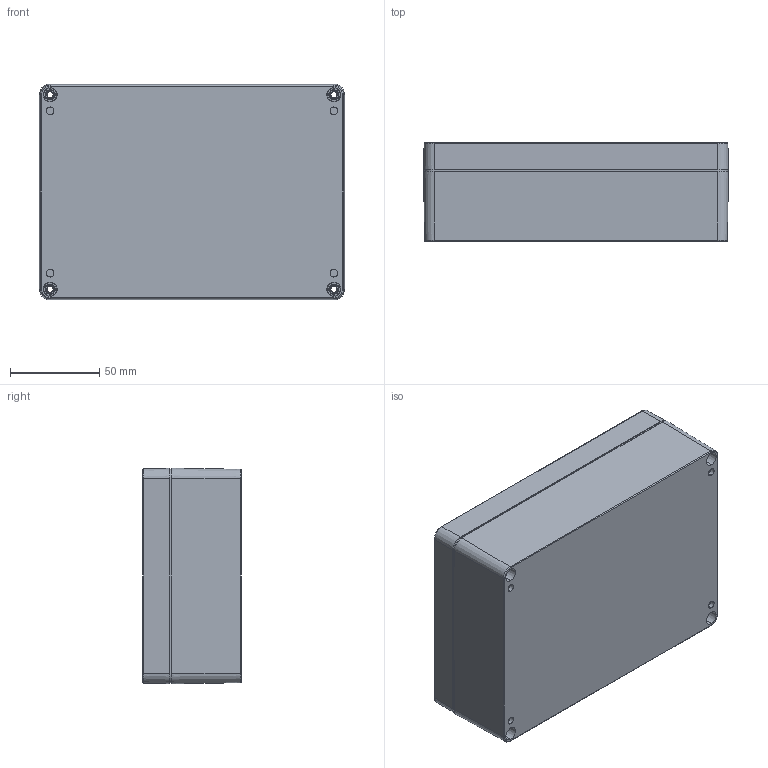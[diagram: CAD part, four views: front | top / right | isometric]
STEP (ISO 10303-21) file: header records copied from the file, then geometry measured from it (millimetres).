
FILE_DESCRIPTION (( 'STEP AP203' ), '1' );
FILE_NAME ('PE236.STEP', '2023-01-17T05:49:37', ( '' ), ( '' ), 'SwSTEP 2.0', 'SolidWorks 2021', '' );
FILE_SCHEMA (( 'CONFIG_CONTROL_DESIGN' ));
Length unit declared in the file: millimetre
Products named in the file (4): PE236
Assembly tree (3 placements, depth 2):
  PE236
    PE236
    PE236
    PE236
Bounding box: 170.97 x 55.2 x 120.97 mm (x, y, z)
Volume: 249650.2 mm3; surface area: 196954.2 mm2
Topology: 11 solids, 11 shells, 1448 faces, 3864 edges, 2498 vertices
Faces by surface type: bspline 464, cylinder 372, plane 360, cone 244, torus 8
Entity records: 50134 total; most frequent: CARTESIAN_POINT 16174, ORIENTED_EDGE 7692, DIRECTION 6140, EDGE_CURVE 3846, VERTEX_POINT 2498, AXIS2_PLACEMENT_3D 2220, VECTOR 1700, LINE 1700
